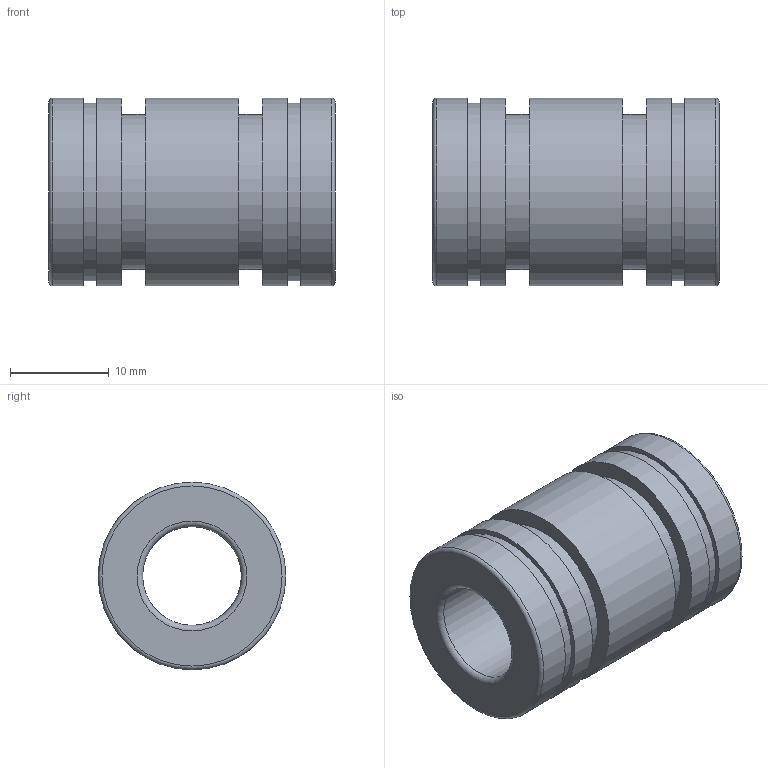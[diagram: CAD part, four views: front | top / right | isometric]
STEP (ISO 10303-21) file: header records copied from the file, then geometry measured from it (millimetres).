
FILE_DESCRIPTION(('STEP AP203'),'1');
FILE_NAME('//192.168.1.1/share/s-4 技術開発/s-4-4_CAD/s-4-4-3_見直し済み/PBC LINEAR修正済み/3D途中/FJ/FJ10.step','2022-03-24T06:58:51',(' '),(' '),'Spatial InterOp 3D',' ',' ');
FILE_SCHEMA(('CONFIG_CONTROL_DESIGN'));
Length unit declared in the file: millimetre
Products named in the file (1): 1
Bounding box: 29 x 19 x 19 mm (x, y, z)
Volume: 5433.4 mm3; surface area: 3436.2 mm2
Topology: 1 solids, 1 shells, 24 faces, 38 edges, 24 vertices
Faces by surface type: cylinder 10, plane 10, torus 4
Full cylindrical faces by diameter (mm): 10 x1, 15.7 x2, 18 x2, 19 x5
Entity records: 532 total; most frequent: DIRECTION 98, CARTESIAN_POINT 73, AXIS2_PLACEMENT_3D 49, EDGE_LOOP 48, ORIENTED_EDGE 48, FACE_OUTER_BOUND 38, ADVANCED_FACE 24, EDGE_CURVE 24
